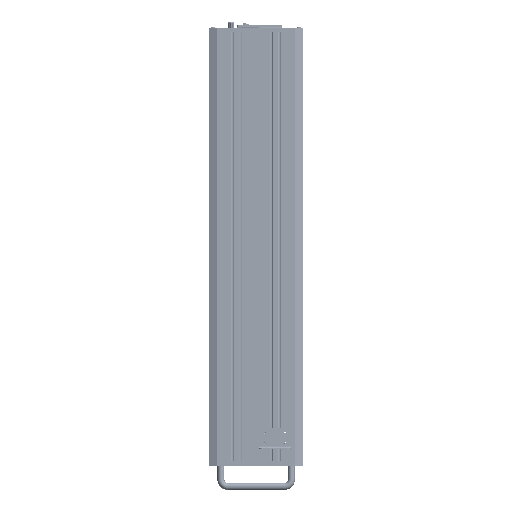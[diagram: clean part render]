
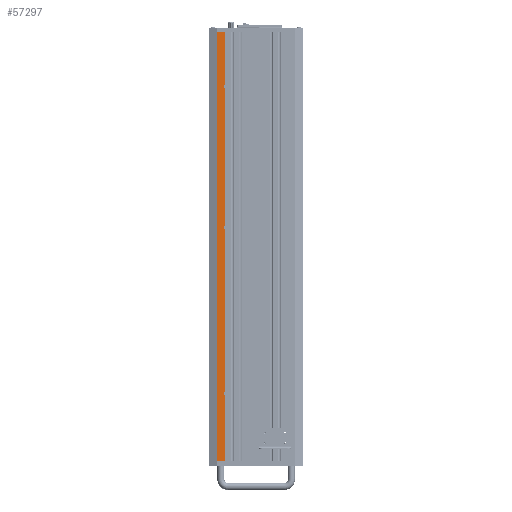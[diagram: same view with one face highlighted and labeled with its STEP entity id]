
A CAD part, left-side view. The second image highlights one B-rep face of the part: STEP entity #57297.
In plain terms, the highlighted planar face has unit normal (-1, 0, 0).
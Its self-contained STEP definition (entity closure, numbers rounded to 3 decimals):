
#45875 = VERTEX_POINT ( 'NONE', #55859 ) ;
#47457 = VECTOR ( 'NONE', #118540, 1000. ) ;
#52072 = VERTEX_POINT ( 'NONE', #197317 ) ;
#55859 = CARTESIAN_POINT ( 'NONE',  ( -218., 55.55, -608.4 ) ) ;
#57297 = ADVANCED_FACE ( 'NONE', ( #175459 ), #232763, .F. ) ;
#58907 = CARTESIAN_POINT ( 'NONE',  ( -218., 55.55, -608.4 ) ) ;
#61374 = LINE ( 'NONE', #99178, #252343 ) ;
#64428 = ORIENTED_EDGE ( 'NONE', *, *, #204571, .F. ) ;
#68104 = DIRECTION ( 'NONE',  ( 1., 0., 0. ) ) ;
#70103 = VERTEX_POINT ( 'NONE', #79783 ) ;
#75623 = VECTOR ( 'NONE', #162920, 1000. ) ;
#79783 = CARTESIAN_POINT ( 'NONE',  ( -218., 55.55, -1.6 ) ) ;
#82259 = CARTESIAN_POINT ( 'NONE',  ( -218., 55.55, -1.6 ) ) ;
#86271 = CARTESIAN_POINT ( 'NONE',  ( -218., 55.55, -1.6 ) ) ;
#99178 = CARTESIAN_POINT ( 'NONE',  ( -218., 44.55, -1.6 ) ) ;
#99954 = EDGE_LOOP ( 'NONE', ( #241545, #64428, #223541, #179375 ) ) ;
#118540 = DIRECTION ( 'NONE',  ( 0., -1., 0. ) ) ;
#126522 = EDGE_CURVE ( 'NONE', #45875, #52072, #176929, .T. ) ;
#137497 = LINE ( 'NONE', #82259, #75623 ) ;
#146034 = AXIS2_PLACEMENT_3D ( 'NONE', #86271, #68104, #171305 ) ;
#148897 = CARTESIAN_POINT ( 'NONE',  ( -218., 44.55, -1.6 ) ) ;
#157399 = VECTOR ( 'NONE', #185246, 1000. ) ;
#162920 = DIRECTION ( 'NONE',  ( 0., 0., -1. ) ) ;
#171305 = DIRECTION ( 'NONE',  ( 0., 0., -1. ) ) ;
#175459 = FACE_OUTER_BOUND ( 'NONE', #99954, .T. ) ;
#176929 = LINE ( 'NONE', #58907, #47457 ) ;
#179375 = ORIENTED_EDGE ( 'NONE', *, *, #231601, .T. ) ;
#185246 = DIRECTION ( 'NONE',  ( 0., -1., 0. ) ) ;
#196284 = LINE ( 'NONE', #205243, #157399 ) ;
#197317 = CARTESIAN_POINT ( 'NONE',  ( -218., 44.55, -608.4 ) ) ;
#204571 = EDGE_CURVE ( 'NONE', #238616, #52072, #61374, .T. ) ;
#205243 = CARTESIAN_POINT ( 'NONE',  ( -218., 55.55, -1.6 ) ) ;
#223541 = ORIENTED_EDGE ( 'NONE', *, *, #254360, .F. ) ;
#231601 = EDGE_CURVE ( 'NONE', #70103, #45875, #137497, .T. ) ;
#232763 = PLANE ( 'NONE',  #146034 ) ;
#238616 = VERTEX_POINT ( 'NONE', #148897 ) ;
#241545 = ORIENTED_EDGE ( 'NONE', *, *, #126522, .T. ) ;
#252343 = VECTOR ( 'NONE', #268266, 1000. ) ;
#254360 = EDGE_CURVE ( 'NONE', #70103, #238616, #196284, .T. ) ;
#268266 = DIRECTION ( 'NONE',  ( 0., 0., -1. ) ) ;
